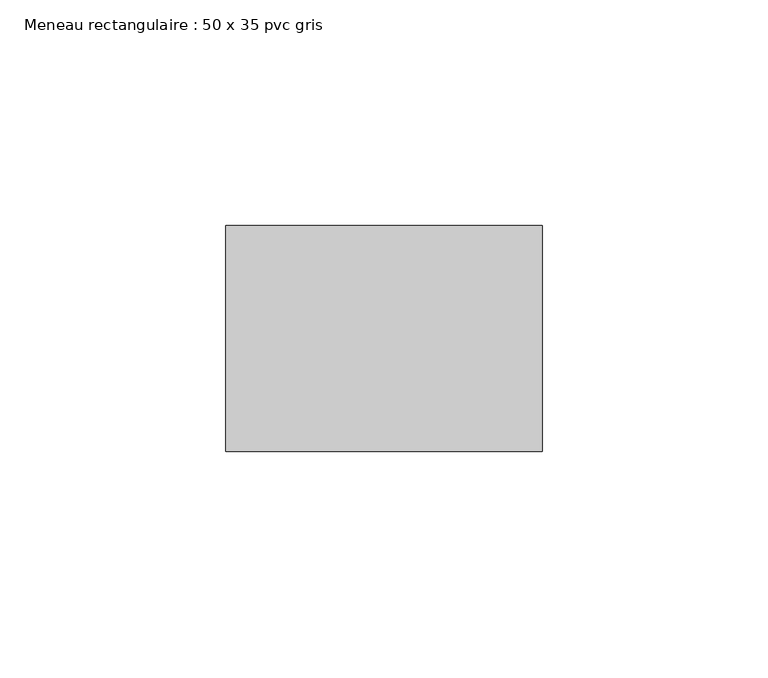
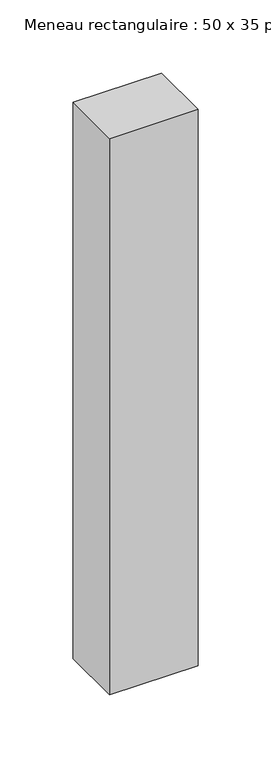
"""IFC4 building model written with IfcOpenShell, lengths in millimetres: member geometry, Meneau rectangulaire : 50 x 35 pvc gris."""

from ifc_helpers import new_model, si_unit, frame, origin, place, context, project, spatial, polyline, outline, extrude, source, transform, mapped, element, save


def meneau_rectangulaire_50_x_35_pvc_gris_60f428d5(model_context):
    return source(origin(), model_context, "Body", "SweptSolid", [
        extrude(outline(polyline([(35.0, 0.0), (35.0, -50.0), (-35.0, -50.0), (-35.0, 0.0), (35.0, 0.0)])), frame((0.0, 0.0, -465.0), z_axis=(0.0, 0.0, 1.0), x_axis=(1.0, 0.0, 0.0)), (0.0, 0.0, 1.0), 465.0),
    ])


if __name__ == "__main__":
    model = new_model("IFC4")
    model_context = context("Model", 3, world=origin())
    ifc_project = project(units=[si_unit("LENGTHUNIT", "METRE", prefix="MILLI")], contexts=[model_context])
    site = spatial("IfcSite", under=ifc_project)
    building = spatial("IfcBuilding", under=site)
    placement = place(None, origin())
    meneau_rectangulaire_50_x_35_pvc_gris_shape = meneau_rectangulaire_50_x_35_pvc_gris_60f428d5(model_context)
    element("IfcMember", 1, ObjectType="Meneau rectangulaire : 50 x 35 pvc gris", at=placement, inside=building, context=model_context, shape_type="MappedRepresentation", body=[
        mapped(meneau_rectangulaire_50_x_35_pvc_gris_shape, transform((0.0, 0.0, 0.0), x_axis=(1.0, 0.0, 0.0), y_axis=(0.0, 1.0, 0.0), z_axis=(0.0, 0.0, 1.0))),
    ])
    save(model, "model.ifc")
